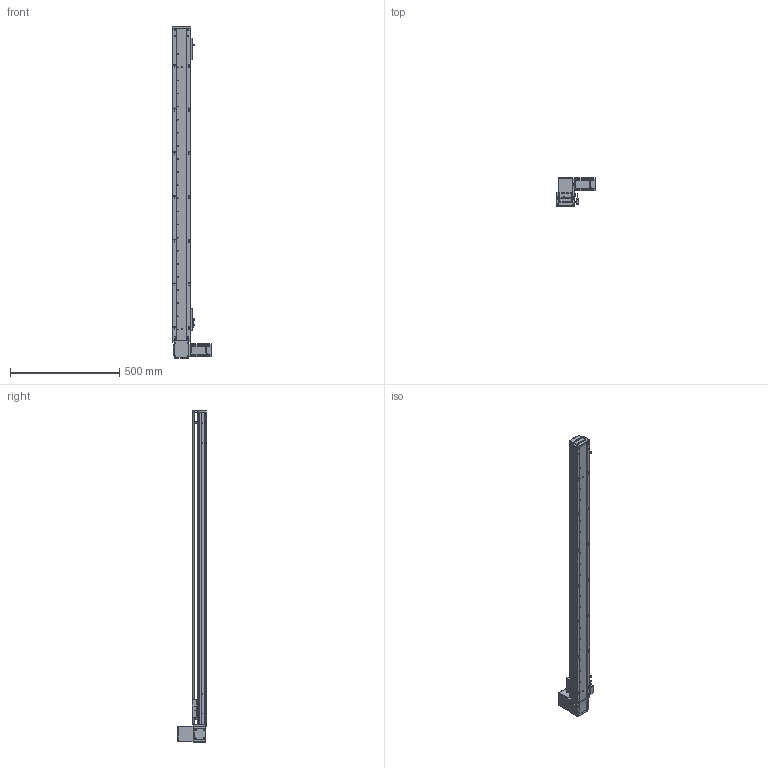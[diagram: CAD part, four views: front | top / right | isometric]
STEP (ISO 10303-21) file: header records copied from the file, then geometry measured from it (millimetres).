
FILE_DESCRIPTION (( 'STEP AP203' ), '1' );
FILE_NAME ('RY80-T-300-UR.SLDASM_1250.step', '2021-03-01T02:27:05', ( '盈信电脑' ), ( '东莞市道滘镇水果街19号' ), 'SwSTEP 2.0', 'SolidWorks 2012', '' );
FILE_SCHEMA (( 'CONFIG_CONTROL_DESIGN' ));
Length unit declared in the file: millimetre
Products named in the file (20): RY80-T萇儂假蚾啣; RY80-T-300-UR.SLDASM_1250; RY80-T-M4蹟翐2; RY80-T-上下折同步轮盖板; RY80-T肮祭謫奻殏俋欶; 1; RY80-T翋肮祭謫裔啣; RY100-T粣創揤踡裔; RY80-T粣創揤踡輸; 滅袉蝶18-10; RY80-T-翋肮祭謫釱; RY80俋离覜茼え; RY80-T肮祭湍揤輸2; RY80-T肮祭湍揤輸1; 覜茼ん672; 672嫖萇羲壽假蚾釱; RY80-T綴裔啣; RY80-T-300-UR倰第奻裔啣_1250; RY80-T-300-UR倰第菁釱_1250; RY80-T肮祭謫臏賑輸
Assembly tree (23 placements, depth 2):
  RY80-T-300-UR.SLDASM_1250
    RY80-T-300-UR倰第菁釱_1250
    RY80-T肮祭謫臏賑輸
    RY80-T-300-UR倰第奻裔啣_1250
    RY80-T綴裔啣
    672嫖萇羲壽假蚾釱  x2
    覜茼ん672  x3
    RY80俋离覜茼え
    RY80-T-翋肮祭謫釱
    RY80-T肮祭湍揤輸1
    RY80-T肮祭湍揤輸2
    RY80-T粣創揤踡輸
    滅袉蝶18-10  x2
    RY100-T粣創揤踡裔
    RY80-T翋肮祭謫裔啣
    RY80-T-上下折同步轮盖板
    1
    RY80-T肮祭謫奻殏俋欶
    RY80-T-M4蹟翐2
    RY80-T萇儂假蚾啣
Bounding box: 180 x 130.5 x 1520 mm (x, y, z)
Volume: 2516761.3 mm3; surface area: 1059763.5 mm2
Topology: 23 solids, 23 shells, 2494 faces, 6874 edges, 4466 vertices
Faces by surface type: plane 1337, cylinder 960, cone 141, bspline 56
Entity records: 79640 total; most frequent: CARTESIAN_POINT 19152, ORIENTED_EDGE 12392, DIRECTION 11706, EDGE_CURVE 6196, VERTEX_POINT 4070, AXIS2_PLACEMENT_3D 3948, LINE 3810, VECTOR 3810
